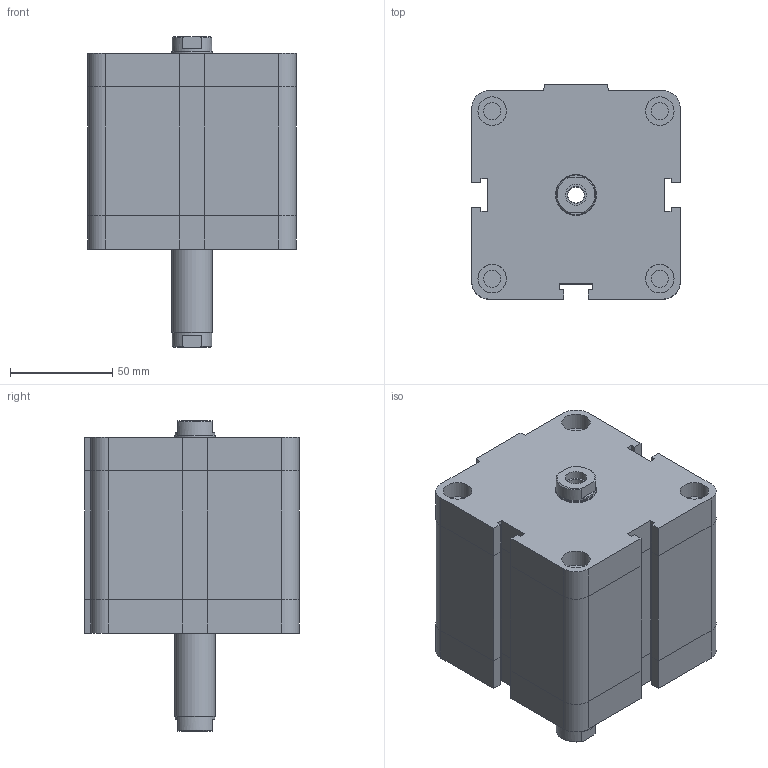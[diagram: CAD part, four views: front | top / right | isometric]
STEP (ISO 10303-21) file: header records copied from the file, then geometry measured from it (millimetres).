
FILE_DESCRIPTION((''),'2;1');
FILE_NAME('I:\Area Tecnica\Disegni\VARIE-3D\Componenti\EUROPE\15##_###_####_06_#\1581_80_0040_06_1.iam.stp','2009-04-20T15:11:47',(''),(''),'Autodesk Inventor 2009','Autodesk Inventor 2009','');
FILE_SCHEMA(('AUTOMOTIVE_DESIGN { 1 0 10303 214 1 1 1 1 }'));
Length unit declared in the file: millimetre
Products named in the file (3): 1581_80_0040_06_1; 1581_80_0040_03_1_C; 1561_80_0040_06_1_S
Assembly tree (2 placements, depth 2):
  1581_80_0040_06_1
    1581_80_0040_03_1_C
    1561_80_0040_06_1_S
Bounding box: 102 x 105 x 152 mm (x, y, z)
Volume: 963414.9 mm3; surface area: 91086.3 mm2
Topology: 2 solids, 2 shells, 175 faces, 382 edges, 233 vertices
Faces by surface type: plane 114, bspline 30, cylinder 25, cone 6
Full cylindrical faces by diameter (mm): 8.376 x5, 10.3 x1, 14 x4, 19.5 x2, 20 x1
Entity records: 4805 total; most frequent: CARTESIAN_POINT 1042, DIRECTION 712, ORIENTED_EDGE 680, EDGE_CURVE 340, VECTOR 252, LINE 252, AXIS2_PLACEMENT_3D 230, EDGE_LOOP 230
